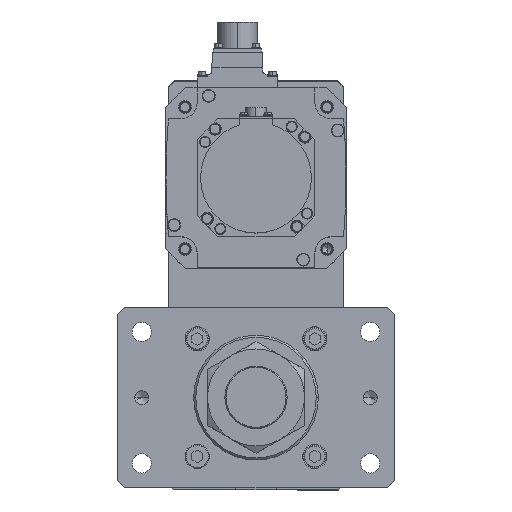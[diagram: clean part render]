
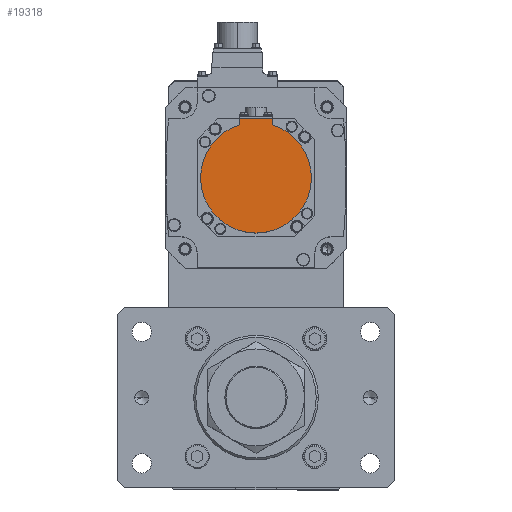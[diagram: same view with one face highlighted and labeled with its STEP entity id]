
A CAD part, top view. The second image highlights one B-rep face of the part: STEP entity #19318.
In plain terms, the highlighted planar face has unit normal (0, 0, 1) as drawn and (0, 0, -1) by its records, which use the part's own axes.
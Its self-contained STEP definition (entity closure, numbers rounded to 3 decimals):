
#1033 = VERTEX_POINT ( 'NONE', #1956 ) ;
#1432 = CARTESIAN_POINT ( 'NONE',  ( -40., 0., -146.5 ) ) ;
#1956 = CARTESIAN_POINT ( 'NONE',  ( -12., -42.5, -146.5 ) ) ;
#2564 = ORIENTED_EDGE ( 'NONE', *, *, #8534, .F. ) ;
#3246 = DIRECTION ( 'NONE',  ( 0., 0., 1. ) ) ;
#3499 = ORIENTED_EDGE ( 'NONE', *, *, #24774, .F. ) ;
#3943 = ORIENTED_EDGE ( 'NONE', *, *, #14970, .T. ) ;
#3994 = CARTESIAN_POINT ( 'NONE',  ( 0., -42.5, -146.5 ) ) ;
#5038 = PLANE ( 'NONE',  #27175 ) ;
#6080 = VECTOR ( 'NONE', #9133, 1000. ) ;
#6364 = VERTEX_POINT ( 'NONE', #21012 ) ;
#7652 = CARTESIAN_POINT ( 'NONE',  ( 40., 0., -146.5 ) ) ;
#8324 = ORIENTED_EDGE ( 'NONE', *, *, #22384, .T. ) ;
#8534 = EDGE_CURVE ( 'NONE', #25395, #17786, #13995, .T. ) ;
#9133 = DIRECTION ( 'NONE',  ( -1., 0., 0. ) ) ;
#10334 = DIRECTION ( 'NONE',  ( 0., 1., 0. ) ) ;
#10750 = DIRECTION ( 'NONE',  ( 1., 0., 0. ) ) ;
#12726 = VERTEX_POINT ( 'NONE', #22415 ) ;
#12933 = ORIENTED_EDGE ( 'NONE', *, *, #31326, .F. ) ;
#13311 = DIRECTION ( 'NONE',  ( 0., 0., 1. ) ) ;
#13853 = CARTESIAN_POINT ( 'NONE',  ( 0., 0., -146.5 ) ) ;
#13995 = CIRCLE ( 'NONE', #21958, 40. ) ;
#14006 = LINE ( 'NONE', #3994, #6080 ) ;
#14950 = FACE_OUTER_BOUND ( 'NONE', #19400, .T. ) ;
#14970 = EDGE_CURVE ( 'NONE', #6364, #1033, #14006, .T. ) ;
#15887 = CARTESIAN_POINT ( 'NONE',  ( -12., -38.158, -146.5 ) ) ;
#16350 = AXIS2_PLACEMENT_3D ( 'NONE', #19253, #3246, #21943 ) ;
#17786 = VERTEX_POINT ( 'NONE', #15887 ) ;
#19176 = LINE ( 'NONE', #20289, #25039 ) ;
#19253 = CARTESIAN_POINT ( 'NONE',  ( 0., 0., -146.5 ) ) ;
#19318 = ADVANCED_FACE ( 'NONE', ( #14950 ), #5038, .F. ) ;
#19400 = EDGE_LOOP ( 'NONE', ( #8324, #2564, #26677, #3499, #12933, #3943 ) ) ;
#20289 = CARTESIAN_POINT ( 'NONE',  ( -12., -40.329, -146.5 ) ) ;
#21012 = CARTESIAN_POINT ( 'NONE',  ( 12., -42.5, -146.5 ) ) ;
#21146 = AXIS2_PLACEMENT_3D ( 'NONE', #30421, #30082, #25092 ) ;
#21402 = CARTESIAN_POINT ( 'NONE',  ( 0., -1.249, -146.5 ) ) ;
#21615 = DIRECTION ( 'NONE',  ( 0., 0., 1. ) ) ;
#21943 = DIRECTION ( 'NONE',  ( 1., 0., 0. ) ) ;
#21958 = AXIS2_PLACEMENT_3D ( 'NONE', #13853, #21615, #10750 ) ;
#22384 = EDGE_CURVE ( 'NONE', #1033, #17786, #19176, .T. ) ;
#22415 = CARTESIAN_POINT ( 'NONE',  ( 12., -38.158, -146.5 ) ) ;
#22590 = VERTEX_POINT ( 'NONE', #7652 ) ;
#23653 = CARTESIAN_POINT ( 'NONE',  ( 12., -1.249, -146.5 ) ) ;
#24311 = CIRCLE ( 'NONE', #21146, 40. ) ;
#24774 = EDGE_CURVE ( 'NONE', #12726, #22590, #32764, .T. ) ;
#25039 = VECTOR ( 'NONE', #25785, 1000. ) ;
#25092 = DIRECTION ( 'NONE',  ( 1., 0., 0. ) ) ;
#25135 = VECTOR ( 'NONE', #10334, 1000. ) ;
#25395 = VERTEX_POINT ( 'NONE', #1432 ) ;
#25785 = DIRECTION ( 'NONE',  ( 0., 1., 0. ) ) ;
#26677 = ORIENTED_EDGE ( 'NONE', *, *, #27495, .F. ) ;
#27175 = AXIS2_PLACEMENT_3D ( 'NONE', #21402, #13311, #32008 ) ;
#27495 = EDGE_CURVE ( 'NONE', #22590, #25395, #24311, .T. ) ;
#30082 = DIRECTION ( 'NONE',  ( 0., 0., 1. ) ) ;
#30421 = CARTESIAN_POINT ( 'NONE',  ( 0., 0., -146.5 ) ) ;
#31326 = EDGE_CURVE ( 'NONE', #6364, #12726, #32221, .T. ) ;
#32008 = DIRECTION ( 'NONE',  ( 1., 0., 0. ) ) ;
#32221 = LINE ( 'NONE', #23653, #25135 ) ;
#32764 = CIRCLE ( 'NONE', #16350, 40. ) ;
